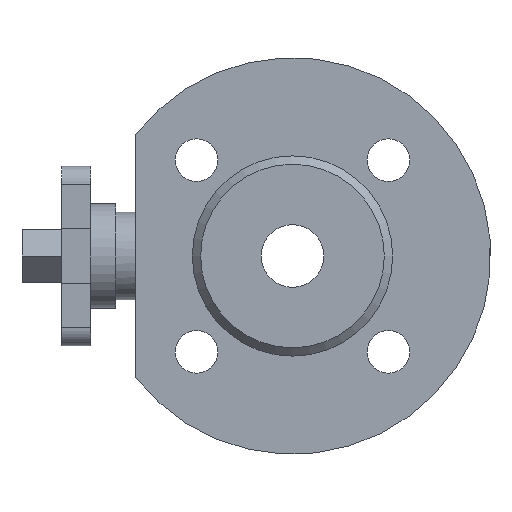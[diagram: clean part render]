
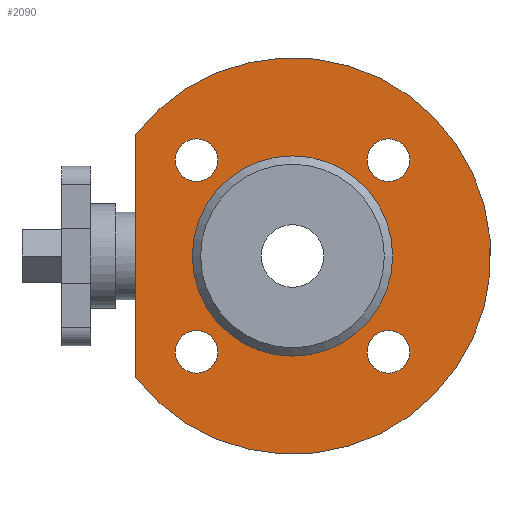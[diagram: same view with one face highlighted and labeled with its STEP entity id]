
A CAD part, left-side view. The second image highlights one B-rep face of the part: STEP entity #2090.
In plain terms, the highlighted planar face has unit normal (-1, 0, 0).
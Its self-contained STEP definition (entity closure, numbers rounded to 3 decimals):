
#17 = CARTESIAN_POINT ( 'NONE',  ( -16., 0., 24. ) ) ;
#52 = DIRECTION ( 'NONE',  ( -1., 0., 0. ) ) ;
#63 = DIRECTION ( 'NONE',  ( 0., 0., -1. ) ) ;
#165 = EDGE_LOOP ( 'NONE', ( #1481 ) ) ;
#166 = FACE_OUTER_BOUND ( 'NONE', #1168, .T. ) ;
#190 = AXIS2_PLACEMENT_3D ( 'NONE', #874, #2006, #1045 ) ;
#239 = CIRCLE ( 'NONE', #1004, 24. ) ;
#252 = CARTESIAN_POINT ( 'NONE',  ( -16., -22.981, 22.981 ) ) ;
#253 = AXIS2_PLACEMENT_3D ( 'NONE', #1681, #749, #1874 ) ;
#257 = AXIS2_PLACEMENT_3D ( 'NONE', #252, #1389, #419 ) ;
#266 = EDGE_CURVE ( 'NONE', #1357, #1357, #1790, .T. ) ;
#269 = EDGE_CURVE ( 'NONE', #492, #492, #966, .T. ) ;
#330 = CARTESIAN_POINT ( 'NONE',  ( -16., 28.081, -22.981 ) ) ;
#391 = VERTEX_POINT ( 'NONE', #1458 ) ;
#419 = DIRECTION ( 'NONE',  ( 0., -1., 0. ) ) ;
#437 = VECTOR ( 'NONE', #63, 1000. ) ;
#492 = VERTEX_POINT ( 'NONE', #659 ) ;
#522 = DIRECTION ( 'NONE',  ( -1., 0., 0. ) ) ;
#542 = ORIENTED_EDGE ( 'NONE', *, *, #1709, .T. ) ;
#545 = DIRECTION ( 'NONE',  ( -1., 0., 0. ) ) ;
#655 = DIRECTION ( 'NONE',  ( 1., 0., 0. ) ) ;
#659 = CARTESIAN_POINT ( 'NONE',  ( -16., -22.981, -28.081 ) ) ;
#681 = CARTESIAN_POINT ( 'NONE',  ( -16., 37.5, -29.155 ) ) ;
#749 = DIRECTION ( 'NONE',  ( -1., 0., 0. ) ) ;
#790 = AXIS2_PLACEMENT_3D ( 'NONE', #1495, #545, #1645 ) ;
#829 = VERTEX_POINT ( 'NONE', #330 ) ;
#860 = CARTESIAN_POINT ( 'NONE',  ( -16., 37.5, 0. ) ) ;
#874 = CARTESIAN_POINT ( 'NONE',  ( -16., 22.981, 22.981 ) ) ;
#904 = ORIENTED_EDGE ( 'NONE', *, *, #269, .F. ) ;
#937 = CIRCLE ( 'NONE', #790, 5.1 ) ;
#966 = CIRCLE ( 'NONE', #253, 5.1 ) ;
#967 = AXIS2_PLACEMENT_3D ( 'NONE', #1471, #522, #1616 ) ;
#1004 = AXIS2_PLACEMENT_3D ( 'NONE', #1032, #52, #1189 ) ;
#1013 = EDGE_LOOP ( 'NONE', ( #1316 ) ) ;
#1032 = CARTESIAN_POINT ( 'NONE',  ( -16., 0., 0. ) ) ;
#1042 = FACE_BOUND ( 'NONE', #1666, .T. ) ;
#1045 = DIRECTION ( 'NONE',  ( 0., 0., 1. ) ) ;
#1092 = FACE_BOUND ( 'NONE', #1824, .T. ) ;
#1150 = VERTEX_POINT ( 'NONE', #17 ) ;
#1168 = EDGE_LOOP ( 'NONE', ( #542, #2044 ) ) ;
#1189 = DIRECTION ( 'NONE',  ( 0., 0., 1. ) ) ;
#1246 = ORIENTED_EDGE ( 'NONE', *, *, #1503, .F. ) ;
#1295 = CIRCLE ( 'NONE', #190, 5.1 ) ;
#1316 = ORIENTED_EDGE ( 'NONE', *, *, #266, .F. ) ;
#1357 = VERTEX_POINT ( 'NONE', #1772 ) ;
#1383 = CIRCLE ( 'NONE', #967, 47.5 ) ;
#1389 = DIRECTION ( 'NONE',  ( -1., 0., 0. ) ) ;
#1443 = FACE_BOUND ( 'NONE', #1455, .T. ) ;
#1448 = PLANE ( 'NONE',  #1867 ) ;
#1455 = EDGE_LOOP ( 'NONE', ( #904 ) ) ;
#1458 = CARTESIAN_POINT ( 'NONE',  ( -16., 22.981, 28.081 ) ) ;
#1471 = CARTESIAN_POINT ( 'NONE',  ( -16., 0., 0. ) ) ;
#1481 = ORIENTED_EDGE ( 'NONE', *, *, #1505, .F. ) ;
#1495 = CARTESIAN_POINT ( 'NONE',  ( -16., 22.981, -22.981 ) ) ;
#1503 = EDGE_CURVE ( 'NONE', #829, #829, #937, .T. ) ;
#1505 = EDGE_CURVE ( 'NONE', #391, #391, #1295, .T. ) ;
#1510 = EDGE_CURVE ( 'NONE', #1549, #1745, #1700, .T. ) ;
#1549 = VERTEX_POINT ( 'NONE', #1661 ) ;
#1590 = CARTESIAN_POINT ( 'NONE',  ( -16., 47.5, 0. ) ) ;
#1616 = DIRECTION ( 'NONE',  ( 0., 0., 1. ) ) ;
#1643 = EDGE_CURVE ( 'NONE', #1150, #1150, #239, .T. ) ;
#1645 = DIRECTION ( 'NONE',  ( 0., 1., 0. ) ) ;
#1661 = CARTESIAN_POINT ( 'NONE',  ( -16., 37.5, 29.155 ) ) ;
#1666 = EDGE_LOOP ( 'NONE', ( #1883 ) ) ;
#1681 = CARTESIAN_POINT ( 'NONE',  ( -16., -22.981, -22.981 ) ) ;
#1700 = LINE ( 'NONE', #860, #437 ) ;
#1709 = EDGE_CURVE ( 'NONE', #1745, #1549, #1383, .T. ) ;
#1745 = VERTEX_POINT ( 'NONE', #681 ) ;
#1761 = DIRECTION ( 'NONE',  ( 0., 0., -1. ) ) ;
#1772 = CARTESIAN_POINT ( 'NONE',  ( -16., -28.081, 22.981 ) ) ;
#1790 = CIRCLE ( 'NONE', #257, 5.1 ) ;
#1824 = EDGE_LOOP ( 'NONE', ( #1246 ) ) ;
#1833 = FACE_BOUND ( 'NONE', #1013, .T. ) ;
#1867 = AXIS2_PLACEMENT_3D ( 'NONE', #1590, #655, #1761 ) ;
#1874 = DIRECTION ( 'NONE',  ( 0., 0., -1. ) ) ;
#1883 = ORIENTED_EDGE ( 'NONE', *, *, #1643, .F. ) ;
#1940 = FACE_BOUND ( 'NONE', #165, .T. ) ;
#2006 = DIRECTION ( 'NONE',  ( -1., 0., 0. ) ) ;
#2044 = ORIENTED_EDGE ( 'NONE', *, *, #1510, .T. ) ;
#2090 = ADVANCED_FACE ( 'NONE', ( #1833, #1443, #1092, #1940, #1042, #166 ), #1448, .F. ) ;
